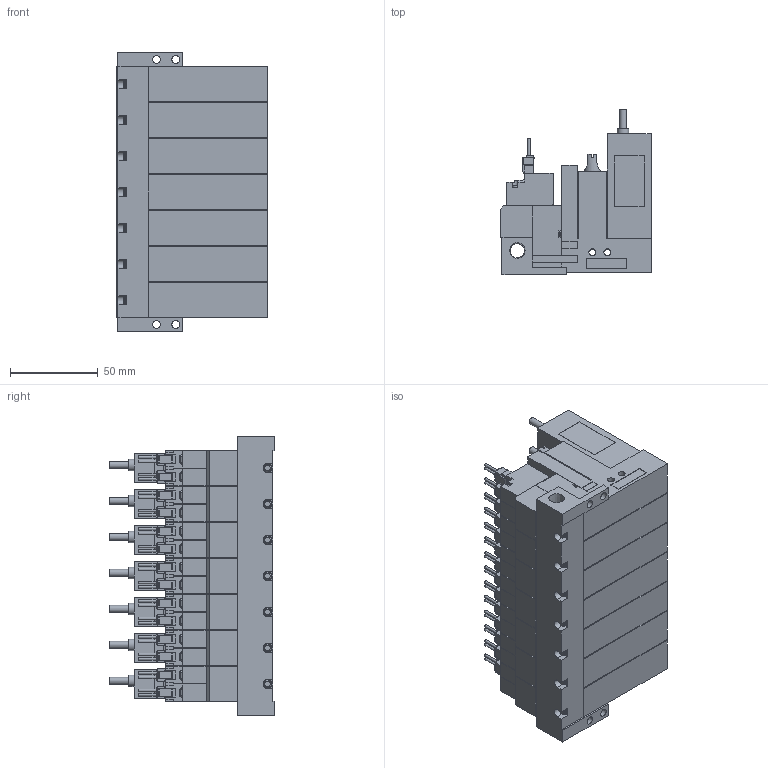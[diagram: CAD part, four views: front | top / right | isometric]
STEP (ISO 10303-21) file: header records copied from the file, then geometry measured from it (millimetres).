
FILE_DESCRIPTION(('STEP AP203'),'1');
FILE_NAME('VG_VGPL5BLR707.stp','2025-02-25T04:38:15',(' '),(' '),'Spatial InterOp 3D',' ',' ');
FILE_SCHEMA(('CONFIG_CONTROL_DESIGN'));
Length unit declared in the file: millimetre
Products named in the file (5): BMC22M※※※※VG_VGPL5BLR707; Solenoid valve B; Pressure sensor VGL; Unit L; Base MR70R
Assembly tree (22 placements, depth 2):
  BMC22M※※※※VG_VGPL5BLR707
    Solenoid valve B  x7
    Pressure sensor VGL  x7
    Unit L  x7
    Base MR70R
Bounding box: 86.6 x 94 x 159 mm (x, y, z)
Volume: 694033.6 mm3; surface area: 186336.8 mm2
Topology: 22 solids, 22 shells, 2506 faces, 6709 edges, 4443 vertices
Faces by surface type: plane 2114, cylinder 320, cone 51, torus 21
Full cylindrical faces by diameter (mm): 1.4 x28, 2.5 x21, 3 x28, 3.5 x28, 3.6 x7, 4 x42, 4.134 x7, 4.5 x4, 5.2 x7, 6 x7, 6.5 x7, 6.6 x7, 8.279 x1
Entity records: 14549 total; most frequent: CARTESIAN_POINT 2803, DIRECTION 2332, ORIENTED_EDGE 2220, EDGE_CURVE 1110, LINE 868, VECTOR 868, VERTEX_POINT 788, AXIS2_PLACEMENT_3D 732
